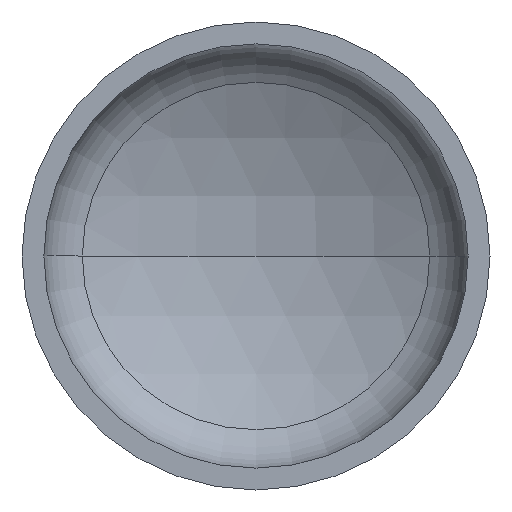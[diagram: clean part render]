
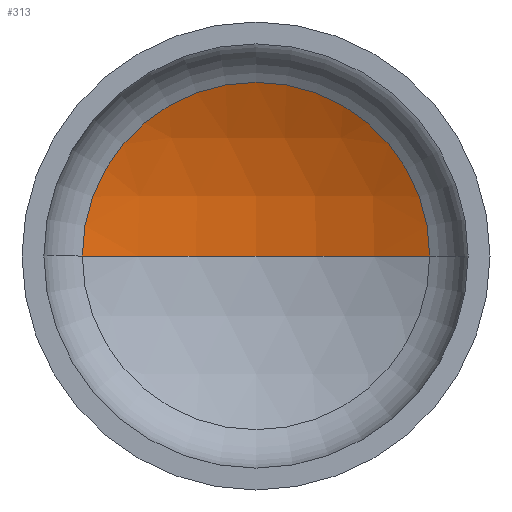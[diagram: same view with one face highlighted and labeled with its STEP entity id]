
A CAD part, front view. The second image highlights one B-rep face of the part: STEP entity #313.
In plain terms, the highlighted spherical face has radius 1200 mm.
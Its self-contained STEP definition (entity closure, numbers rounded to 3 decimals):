
#20 = AXIS2_PLACEMENT_3D ( 'NONE', #173, #338, #195 ) ;
#23 = AXIS2_PLACEMENT_3D ( 'NONE', #267, #55, #291 ) ;
#25 = AXIS2_PLACEMENT_3D ( 'NONE', #359, #219, #379 ) ;
#27 = VERTEX_POINT ( 'NONE', #232 ) ;
#36 = AXIS2_PLACEMENT_3D ( 'NONE', #149, #334, #241 ) ;
#55 = DIRECTION ( 'NONE',  ( 0., 0., -1. ) ) ;
#81 = VERTEX_POINT ( 'NONE', #206 ) ;
#91 = ORIENTED_EDGE ( 'NONE', *, *, #348, .T. ) ;
#117 = EDGE_LOOP ( 'NONE', ( #331, #381, #91 ) ) ;
#123 = VERTEX_POINT ( 'NONE', #283 ) ;
#149 = CARTESIAN_POINT ( 'NONE',  ( 0., -739.302, 0. ) ) ;
#162 = SPHERICAL_SURFACE ( 'NONE', #36, 1200. ) ;
#173 = CARTESIAN_POINT ( 'NONE',  ( 0., -739.302, 0. ) ) ;
#195 = DIRECTION ( 'NONE',  ( 1., 0., 0. ) ) ;
#205 = CIRCLE ( 'NONE', #23, 1200. ) ;
#206 = CARTESIAN_POINT ( 'NONE',  ( 0., 460.698, 0. ) ) ;
#219 = DIRECTION ( 'NONE',  ( 0., -1., 0. ) ) ;
#227 = CIRCLE ( 'NONE', #25, 556.701 ) ;
#232 = CARTESIAN_POINT ( 'NONE',  ( 556.701, 323.752, 0. ) ) ;
#241 = DIRECTION ( 'NONE',  ( -1., 0., 0. ) ) ;
#267 = CARTESIAN_POINT ( 'NONE',  ( 0., -739.302, 0. ) ) ;
#279 = FACE_OUTER_BOUND ( 'NONE', #117, .T. ) ;
#283 = CARTESIAN_POINT ( 'NONE',  ( -556.701, 323.752, 0. ) ) ;
#291 = DIRECTION ( 'NONE',  ( -1., 0., 0. ) ) ;
#313 = ADVANCED_FACE ( 'NONE', ( #279 ), #162, .F. ) ;
#331 = ORIENTED_EDGE ( 'NONE', *, *, #351, .F. ) ;
#334 = DIRECTION ( 'NONE',  ( 0., 0., -1. ) ) ;
#338 = DIRECTION ( 'NONE',  ( 0., 0., 1. ) ) ;
#348 = EDGE_CURVE ( 'NONE', #27, #123, #227, .T. ) ;
#349 = EDGE_CURVE ( 'NONE', #81, #27, #205, .T. ) ;
#351 = EDGE_CURVE ( 'NONE', #81, #123, #386, .T. ) ;
#359 = CARTESIAN_POINT ( 'NONE',  ( 0., 323.752, 0. ) ) ;
#379 = DIRECTION ( 'NONE',  ( 1., 0., 0. ) ) ;
#381 = ORIENTED_EDGE ( 'NONE', *, *, #349, .T. ) ;
#386 = CIRCLE ( 'NONE', #20, 1200. ) ;
